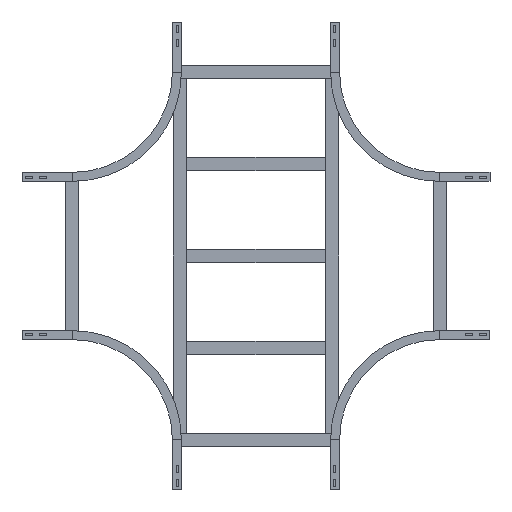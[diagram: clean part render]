
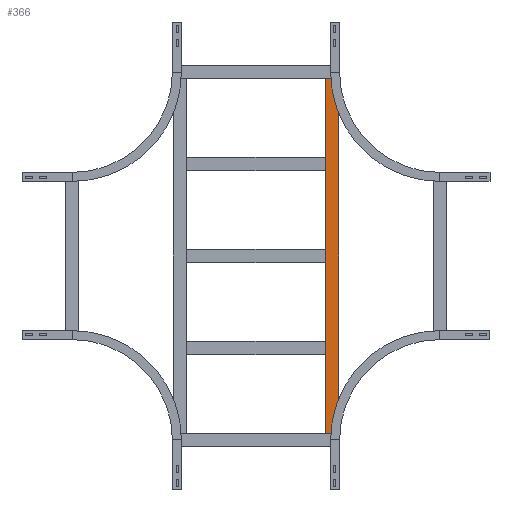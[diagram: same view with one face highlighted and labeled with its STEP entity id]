
A CAD part, front view. The second image highlights one B-rep face of the part: STEP entity #366.
In plain terms, the highlighted planar face has unit normal (0, -1, 0).
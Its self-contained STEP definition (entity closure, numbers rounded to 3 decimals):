
#4 = EDGE_CURVE ( 'NONE', #2040, #719, #2198, .T. ) ;
#14 = DIRECTION ( 'NONE',  ( 0., 0., 1. ) ) ;
#56 = CARTESIAN_POINT ( 'NONE',  ( 529.75, 0., -20.25 ) ) ;
#66 = ORIENTED_EDGE ( 'NONE', *, *, #1737, .F. ) ;
#187 = CARTESIAN_POINT ( 'NONE',  ( 529.75, 0., -20.25 ) ) ;
#205 = PLANE ( 'NONE',  #1750 ) ;
#246 = LINE ( 'NONE', #56, #2055 ) ;
#366 = ADVANCED_FACE ( 'NONE', ( #1786 ), #205, .F. ) ;
#446 = VERTEX_POINT ( 'NONE', #1768 ) ;
#589 = VECTOR ( 'NONE', #2213, 1000. ) ;
#596 = DIRECTION ( 'NONE',  ( 0., 1., 0. ) ) ;
#607 = CARTESIAN_POINT ( 'NONE',  ( 529.75, 0., 20.25 ) ) ;
#681 = CARTESIAN_POINT ( 'NONE',  ( 529.75, 0., 20.25 ) ) ;
#682 = ORIENTED_EDGE ( 'NONE', *, *, #4, .F. ) ;
#714 = DIRECTION ( 'NONE',  ( 0., 0., -1. ) ) ;
#719 = VERTEX_POINT ( 'NONE', #187 ) ;
#862 = VERTEX_POINT ( 'NONE', #1316 ) ;
#1007 = CARTESIAN_POINT ( 'NONE',  ( -529.75, 0., 20.25 ) ) ;
#1018 = VECTOR ( 'NONE', #1641, 1000. ) ;
#1123 = EDGE_CURVE ( 'NONE', #2040, #446, #2407, .T. ) ;
#1252 = EDGE_LOOP ( 'NONE', ( #1617, #66, #682, #2260 ) ) ;
#1316 = CARTESIAN_POINT ( 'NONE',  ( -529.75, 0., -20.25 ) ) ;
#1404 = LINE ( 'NONE', #1007, #1799 ) ;
#1520 = CARTESIAN_POINT ( 'NONE',  ( 529.75, 0., 20.25 ) ) ;
#1617 = ORIENTED_EDGE ( 'NONE', *, *, #2468, .T. ) ;
#1641 = DIRECTION ( 'NONE',  ( 0., 0., -1. ) ) ;
#1737 = EDGE_CURVE ( 'NONE', #719, #862, #246, .T. ) ;
#1750 = AXIS2_PLACEMENT_3D ( 'NONE', #607, #596, #14 ) ;
#1768 = CARTESIAN_POINT ( 'NONE',  ( -529.75, 0., 20.25 ) ) ;
#1786 = FACE_OUTER_BOUND ( 'NONE', #1252, .T. ) ;
#1799 = VECTOR ( 'NONE', #714, 1000. ) ;
#1808 = CARTESIAN_POINT ( 'NONE',  ( 529.75, 0., 20.25 ) ) ;
#1919 = DIRECTION ( 'NONE',  ( -1., 0., 0. ) ) ;
#2040 = VERTEX_POINT ( 'NONE', #1520 ) ;
#2055 = VECTOR ( 'NONE', #1919, 1000. ) ;
#2198 = LINE ( 'NONE', #1808, #1018 ) ;
#2213 = DIRECTION ( 'NONE',  ( -1., 0., 0. ) ) ;
#2260 = ORIENTED_EDGE ( 'NONE', *, *, #1123, .T. ) ;
#2407 = LINE ( 'NONE', #681, #589 ) ;
#2468 = EDGE_CURVE ( 'NONE', #446, #862, #1404, .T. ) ;
